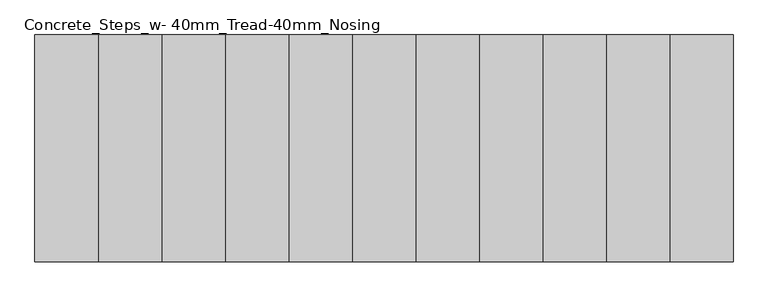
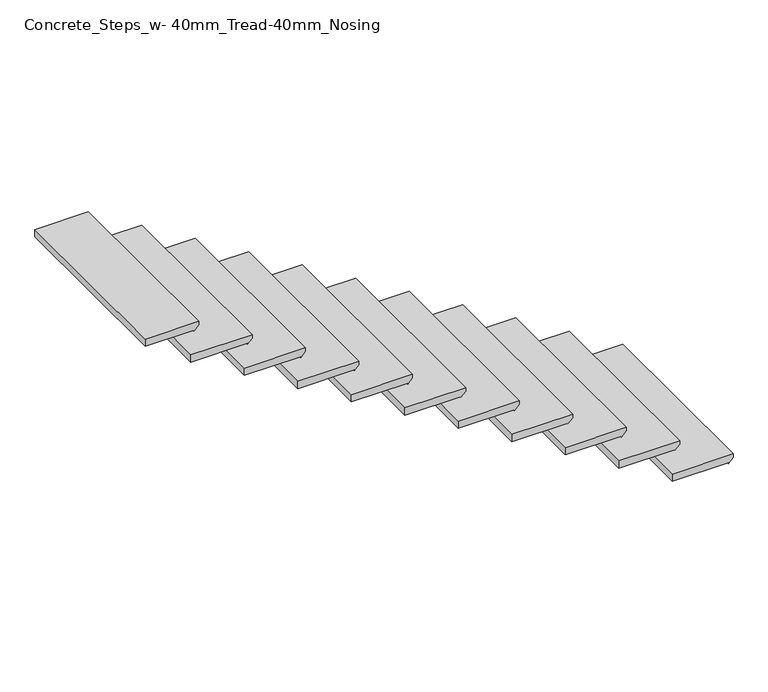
"""IFC4 building model written with IfcOpenShell, lengths in millimetres: stair flight geometry, Concrete_Steps_w- 40mm_Tread-40mm_Nosing."""

from ifc_helpers import new_model, si_unit, frame, origin, place, context, project, spatial, polyline, outline, extrude, source, transform, mapped, element, save


def concrete_steps_w_40mm_tread_40mm_nosing_01273eb4(model_context):
    return source(origin(), model_context, "Body", "SweptSolid", [
        extrude(outline(polyline([(12885.7142857, 38365.7942367), (12885.7142857, 38045.7942367), (12845.7142857, 38045.7942367), (12845.7142857, 38340.3942367), (12841.2642857, 38340.3942367), (12866.6642857, 38365.7942367), (12885.7142857, 38365.7942367)])), frame((0.0, -3220.0053409, 0.0), z_axis=(0.0, 1.0, 0.0), x_axis=(0.0, 0.0, 1.0)), (0.0, 0.0, 1.0), 1000.0),
        extrude(outline(polyline([(13057.1428571, 38085.7942367), (13057.1428571, 37765.7942367), (13017.1428571, 37765.7942367), (13017.1428571, 38060.3942367), (13012.6928571, 38060.3942367), (13038.0928571, 38085.7942367), (13057.1428571, 38085.7942367)])), frame((0.0, -3220.0053409, 0.0), z_axis=(0.0, 1.0, 0.0), x_axis=(0.0, 0.0, 1.0)), (0.0, 0.0, 1.0), 1000.0),
        extrude(outline(polyline([(13228.5714286, 37805.7942367), (13228.5714286, 37485.7942367), (13188.5714286, 37485.7942367), (13188.5714286, 37780.3942367), (13184.1214286, 37780.3942367), (13209.5214286, 37805.7942367), (13228.5714286, 37805.7942367)])), frame((0.0, -3220.0053409, 0.0), z_axis=(0.0, 1.0, 0.0), x_axis=(0.0, 0.0, 1.0)), (0.0, 0.0, 1.0), 1000.0),
        extrude(outline(polyline([(13400.0, 37525.7942367), (13400.0, 37205.7942367), (13360.0, 37205.7942367), (13360.0, 37500.3942367), (13355.55, 37500.3942367), (13380.95, 37525.7942367), (13400.0, 37525.7942367)])), frame((0.0, -3220.0053409, 0.0), z_axis=(0.0, 1.0, 0.0), x_axis=(0.0, 0.0, 1.0)), (0.0, 0.0, 1.0), 1000.0),
        extrude(outline(polyline([(13571.4285714, 37245.7942367), (13571.4285714, 36925.7942367), (13531.4285714, 36925.7942367), (13531.4285714, 37220.3942367), (13526.9785714, 37220.3942367), (13552.3785714, 37245.7942367), (13571.4285714, 37245.7942367)])), frame((0.0, -3220.0053409, 0.0), z_axis=(0.0, 1.0, 0.0), x_axis=(0.0, 0.0, 1.0)), (0.0, 0.0, 1.0), 1000.0),
        extrude(outline(polyline([(13742.8571429, 36965.7942367), (13742.8571429, 36645.7942367), (13702.8571429, 36645.7942367), (13702.8571429, 36940.3942367), (13698.4071429, 36940.3942367), (13723.8071429, 36965.7942367), (13742.8571429, 36965.7942367)])), frame((0.0, -3220.0053409, 0.0), z_axis=(0.0, 1.0, 0.0), x_axis=(0.0, 0.0, 1.0)), (0.0, 0.0, 1.0), 1000.0),
        extrude(outline(polyline([(13914.2857143, 36685.7942367), (13914.2857143, 36365.7942367), (13874.2857143, 36365.7942367), (13874.2857143, 36660.3942367), (13869.8357143, 36660.3942367), (13895.2357143, 36685.7942367), (13914.2857143, 36685.7942367)])), frame((0.0, -3220.0053409, 0.0), z_axis=(0.0, 1.0, 0.0), x_axis=(0.0, 0.0, 1.0)), (0.0, 0.0, 1.0), 1000.0),
        extrude(outline(polyline([(14085.7142857, 36405.7942367), (14085.7142857, 36085.7942367), (14045.7142857, 36085.7942367), (14045.7142857, 36380.3942367), (14041.2642857, 36380.3942367), (14066.6642857, 36405.7942367), (14085.7142857, 36405.7942367)])), frame((0.0, -3220.0053409, 0.0), z_axis=(0.0, 1.0, 0.0), x_axis=(0.0, 0.0, 1.0)), (0.0, 0.0, 1.0), 1000.0),
        extrude(outline(polyline([(14257.1428571, 36125.7942367), (14257.1428571, 35805.7942367), (14217.1428571, 35805.7942367), (14217.1428571, 36100.3942367), (14212.6928571, 36100.3942367), (14238.0928571, 36125.7942367), (14257.1428571, 36125.7942367)])), frame((0.0, -3220.0053409, 0.0), z_axis=(0.0, 1.0, 0.0), x_axis=(0.0, 0.0, 1.0)), (0.0, 0.0, 1.0), 1000.0),
        extrude(outline(polyline([(14428.5714286, 35845.7942367), (14428.5714286, 35525.7942367), (14388.5714286, 35525.7942367), (14388.5714286, 35820.3942367), (14384.1214286, 35820.3942367), (14409.5214286, 35845.7942367), (14428.5714286, 35845.7942367)])), frame((0.0, -3220.0053409, 0.0), z_axis=(0.0, 1.0, 0.0), x_axis=(0.0, 0.0, 1.0)), (0.0, 0.0, 1.0), 1000.0),
        extrude(outline(polyline([(14600.0, 35565.7942367), (14600.0, 35285.7942367), (14560.0, 35285.7942367), (14560.0, 35540.3942367), (14555.55, 35540.3942367), (14580.95, 35565.7942367), (14600.0, 35565.7942367)])), frame((0.0, -3220.0053409, 0.0), z_axis=(0.0, 1.0, 0.0), x_axis=(0.0, 0.0, 1.0)), (0.0, 0.0, 1.0), 1000.0),
    ])


if __name__ == "__main__":
    model = new_model("IFC4")
    model_context = context("Model", 3, world=origin())
    ifc_project = project(units=[si_unit("LENGTHUNIT", "METRE", prefix="MILLI")], contexts=[model_context])
    site = spatial("IfcSite", under=ifc_project)
    building = spatial("IfcBuilding", under=site)
    placement = place(None, origin())
    concrete_steps_w_40mm_tread_40mm_nosing_shape = concrete_steps_w_40mm_tread_40mm_nosing_01273eb4(model_context)
    element("IfcStairFlight", 1, ObjectType="Concrete_Steps_w- 40mm_Tread-40mm_Nosing", at=placement, inside=building, context=model_context, shape_type="MappedRepresentation", body=[
        mapped(concrete_steps_w_40mm_tread_40mm_nosing_shape, transform((0.0, 0.0, 0.0), x_axis=(1.0, 0.0, 0.0), y_axis=(0.0, 1.0, 0.0), z_axis=(0.0, 0.0, 1.0))),
    ])
    save(model, "model.ifc")
